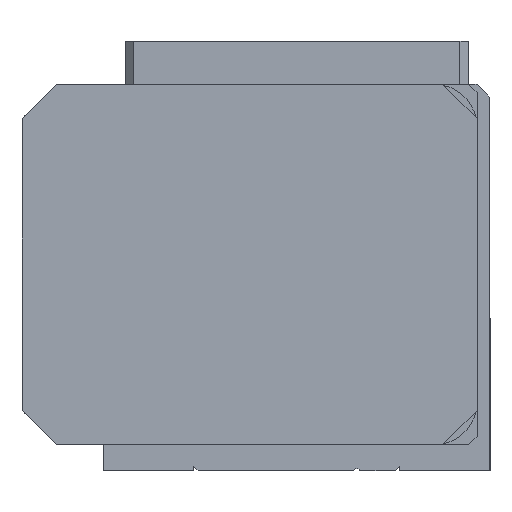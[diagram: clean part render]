
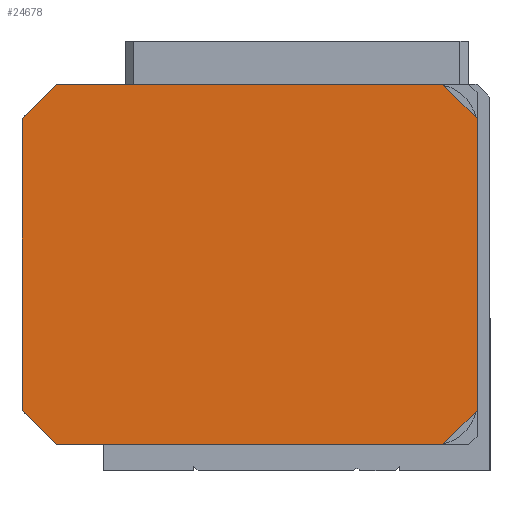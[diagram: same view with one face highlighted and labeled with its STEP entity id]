
A CAD part, left-side view. The second image highlights one B-rep face of the part: STEP entity #24678.
In plain terms, the highlighted planar face has unit normal (-1, 0, 0).
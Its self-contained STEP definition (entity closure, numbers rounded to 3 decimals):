
#23954=CARTESIAN_POINT('',(0.0,-21.,28.));
#23955=VERTEX_POINT('',#23954);
#23962=CARTESIAN_POINT('',(0.0,-21.0,-17.0));
#23963=VERTEX_POINT('',#23962);
#23964=CARTESIAN_POINT('',(0.0,-21.0,-17.0));
#23965=DIRECTION('',(0.0,0.0,1.0));
#23966=VECTOR('',#23965,45.);
#23967=LINE('',#23964,#23966);
#23968=EDGE_CURVE('',#23963,#23955,#23967,.T.);
#24355=CARTESIAN_POINT('',(0.0,21.0,28.));
#24356=VERTEX_POINT('',#24355);
#24363=CARTESIAN_POINT('',(0.0,17.0,32.));
#24364=VERTEX_POINT('',#24363);
#24365=CARTESIAN_POINT('',(0.0,17.0,32.));
#24366=DIRECTION('',(0.0,0.707,-0.707));
#24367=VECTOR('',#24366,5.657);
#24368=LINE('',#24365,#24367);
#24369=EDGE_CURVE('',#24364,#24356,#24368,.T.);
#24396=CARTESIAN_POINT('',(0.0,17.,-21.0));
#24397=VERTEX_POINT('',#24396);
#24404=CARTESIAN_POINT('',(0.0,21.0,-17.0));
#24405=VERTEX_POINT('',#24404);
#24406=CARTESIAN_POINT('',(0.0,21.0,-17.0));
#24407=DIRECTION('',(0.0,-0.707,-0.707));
#24408=VECTOR('',#24407,5.657);
#24409=LINE('',#24406,#24408);
#24410=EDGE_CURVE('',#24405,#24397,#24409,.T.);
#24452=CARTESIAN_POINT('',(0.0,-17.,-21.0));
#24453=VERTEX_POINT('',#24452);
#24454=CARTESIAN_POINT('',(0.0,-17.,-21.0));
#24455=DIRECTION('',(0.0,-0.707,0.707));
#24456=VECTOR('',#24455,5.657);
#24457=LINE('',#24454,#24456);
#24458=EDGE_CURVE('',#24453,#23963,#24457,.T.);
#24485=CARTESIAN_POINT('',(0.0,-17.,32.));
#24486=VERTEX_POINT('',#24485);
#24493=CARTESIAN_POINT('',(0.0,-21.,28.));
#24494=DIRECTION('',(0.0,0.707,0.707));
#24495=VECTOR('',#24494,5.657);
#24496=LINE('',#24493,#24495);
#24497=EDGE_CURVE('',#23955,#24486,#24496,.T.);
#24542=CARTESIAN_POINT('',(0.0,21.0,28.));
#24543=DIRECTION('',(0.0,0.0,-1.0));
#24544=VECTOR('',#24543,45.);
#24545=LINE('',#24542,#24544);
#24546=EDGE_CURVE('',#24356,#24405,#24545,.T.);
#24653=CARTESIAN_POINT('',(0.,0.0,32.));
#24654=DIRECTION('',(-1.0,0.0,0.0));
#24655=DIRECTION('',(0.0,0.0,1.0));
#24656=AXIS2_PLACEMENT_3D('',#24653,#24654,#24655);
#24657=PLANE('',#24656);
#24658=ORIENTED_EDGE('',*,*,#24369,.T.);
#24659=ORIENTED_EDGE('',*,*,#24546,.T.);
#24660=ORIENTED_EDGE('',*,*,#24410,.T.);
#24661=CARTESIAN_POINT('',(0.0,17.,-21.0));
#24662=DIRECTION('',(0.0,-1.0,0.0));
#24663=VECTOR('',#24662,34.);
#24664=LINE('',#24661,#24663);
#24665=EDGE_CURVE('',#24397,#24453,#24664,.T.);
#24666=ORIENTED_EDGE('',*,*,#24665,.T.);
#24667=ORIENTED_EDGE('',*,*,#24458,.T.);
#24668=ORIENTED_EDGE('',*,*,#23968,.T.);
#24669=ORIENTED_EDGE('',*,*,#24497,.T.);
#24670=CARTESIAN_POINT('',(0.0,-17.,32.));
#24671=DIRECTION('',(0.0,1.0,0.0));
#24672=VECTOR('',#24671,34.);
#24673=LINE('',#24670,#24672);
#24674=EDGE_CURVE('',#24486,#24364,#24673,.T.);
#24675=ORIENTED_EDGE('',*,*,#24674,.T.);
#24676=EDGE_LOOP('',(#24658,#24659,#24660,#24666,#24667,#24668,#24669,#24675));
#24677=FACE_OUTER_BOUND('',#24676,.T.);
#24678=ADVANCED_FACE('',(#24677),#24657,.T.);
